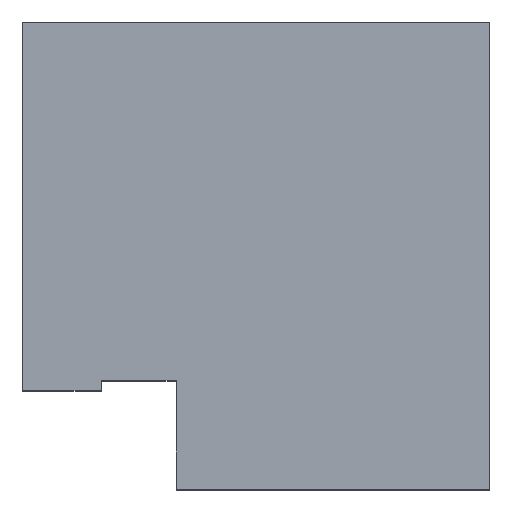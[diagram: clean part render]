
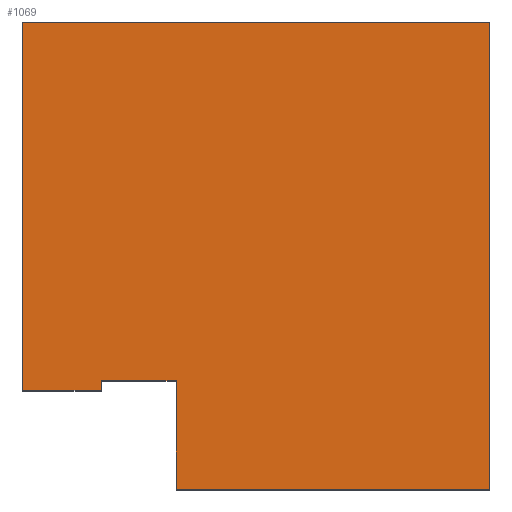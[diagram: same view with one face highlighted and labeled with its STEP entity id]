
A CAD part, top view. The second image highlights one B-rep face of the part: STEP entity #1069.
In plain terms, the highlighted planar face has unit normal (0, 0, 1).
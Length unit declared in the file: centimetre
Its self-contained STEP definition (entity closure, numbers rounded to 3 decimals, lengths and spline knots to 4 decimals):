
#12 = EDGE_CURVE ( 'NONE', #1029, #1156, #518, .T. ) ;
#29 = VECTOR ( 'NONE', #599, 100. ) ;
#30 = ORIENTED_EDGE ( 'NONE', *, *, #1036, .T. ) ;
#72 = PLANE ( 'NONE',  #661 ) ;
#83 = DIRECTION ( 'NONE',  ( 1., 0., 0. ) ) ;
#99 = LINE ( 'NONE', #535, #29 ) ;
#105 = EDGE_CURVE ( 'NONE', #537, #223, #765, .T. ) ;
#106 = DIRECTION ( 'NONE',  ( 0., 1., 0. ) ) ;
#122 = VECTOR ( 'NONE', #853, 100. ) ;
#160 = EDGE_LOOP ( 'NONE', ( #864, #603, #1135, #514, #30, #645, #532, #608 ) ) ;
#165 = VECTOR ( 'NONE', #688, 100. ) ;
#183 = VECTOR ( 'NONE', #205, 100. ) ;
#185 = DIRECTION ( 'NONE',  ( 0., 0., 1. ) ) ;
#199 = VECTOR ( 'NONE', #986, 100. ) ;
#205 = DIRECTION ( 'NONE',  ( 1., 0., 0. ) ) ;
#209 = CARTESIAN_POINT ( 'NONE',  ( 168.8879, 232.3228, 1000. ) ) ;
#223 = VERTEX_POINT ( 'NONE', #525 ) ;
#243 = EDGE_CURVE ( 'NONE', #952, #1107, #99, .T. ) ;
#245 = FACE_OUTER_BOUND ( 'NONE', #160, .T. ) ;
#258 = CARTESIAN_POINT ( 'NONE',  ( 0., 0., 1000. ) ) ;
#270 = EDGE_CURVE ( 'NONE', #1156, #1041, #520, .T. ) ;
#280 = CARTESIAN_POINT ( 'NONE',  ( 1000., 1000., 1000. ) ) ;
#326 = EDGE_CURVE ( 'NONE', #1041, #537, #456, .T. ) ;
#336 = CARTESIAN_POINT ( 'NONE',  ( 0., 211.8454, 1000. ) ) ;
#362 = EDGE_CURVE ( 'NONE', #1107, #1029, #746, .T. ) ;
#431 = VERTEX_POINT ( 'NONE', #1094 ) ;
#456 = LINE ( 'NONE', #209, #183 ) ;
#486 = CARTESIAN_POINT ( 'NONE',  ( 328.9698, 232.3228, 1000. ) ) ;
#497 = CARTESIAN_POINT ( 'NONE',  ( 1000., 1000., 1000. ) ) ;
#514 = ORIENTED_EDGE ( 'NONE', *, *, #105, .T. ) ;
#517 = LINE ( 'NONE', #258, #627 ) ;
#518 = LINE ( 'NONE', #336, #165 ) ;
#520 = LINE ( 'NONE', #624, #199 ) ;
#525 = CARTESIAN_POINT ( 'NONE',  ( 328.9698, 0., 1000. ) ) ;
#532 = ORIENTED_EDGE ( 'NONE', *, *, #243, .T. ) ;
#535 = CARTESIAN_POINT ( 'NONE',  ( 0., 1000., 1000. ) ) ;
#537 = VERTEX_POINT ( 'NONE', #486 ) ;
#548 = DIRECTION ( 'NONE',  ( 0., -1., 0. ) ) ;
#599 = DIRECTION ( 'NONE',  ( -1., 0., 0. ) ) ;
#603 = ORIENTED_EDGE ( 'NONE', *, *, #270, .T. ) ;
#608 = ORIENTED_EDGE ( 'NONE', *, *, #362, .T. ) ;
#624 = CARTESIAN_POINT ( 'NONE',  ( 168.8879, 0., 1000. ) ) ;
#627 = VECTOR ( 'NONE', #880, 100. ) ;
#645 = ORIENTED_EDGE ( 'NONE', *, *, #753, .T. ) ;
#661 = AXIS2_PLACEMENT_3D ( 'NONE', #978, #185, #83 ) ;
#688 = DIRECTION ( 'NONE',  ( 1., 0., 0. ) ) ;
#713 = CARTESIAN_POINT ( 'NONE',  ( 168.8879, 211.8454, 1000. ) ) ;
#728 = CARTESIAN_POINT ( 'NONE',  ( 0., 1000., 1000. ) ) ;
#746 = LINE ( 'NONE', #728, #1136 ) ;
#753 = EDGE_CURVE ( 'NONE', #431, #952, #921, .T. ) ;
#765 = LINE ( 'NONE', #927, #122 ) ;
#853 = DIRECTION ( 'NONE',  ( 0., -1., 0. ) ) ;
#864 = ORIENTED_EDGE ( 'NONE', *, *, #12, .T. ) ;
#880 = DIRECTION ( 'NONE',  ( 1., 0., 0. ) ) ;
#921 = LINE ( 'NONE', #280, #1046 ) ;
#927 = CARTESIAN_POINT ( 'NONE',  ( 328.9698, 0., 1000. ) ) ;
#952 = VERTEX_POINT ( 'NONE', #497 ) ;
#978 = CARTESIAN_POINT ( 'NONE',  ( 0., 0., 1000. ) ) ;
#986 = DIRECTION ( 'NONE',  ( 0., 1., 0. ) ) ;
#1029 = VERTEX_POINT ( 'NONE', #1137 ) ;
#1036 = EDGE_CURVE ( 'NONE', #223, #431, #517, .T. ) ;
#1041 = VERTEX_POINT ( 'NONE', #1050 ) ;
#1046 = VECTOR ( 'NONE', #106, 100. ) ;
#1050 = CARTESIAN_POINT ( 'NONE',  ( 168.8879, 232.3228, 1000. ) ) ;
#1069 = ADVANCED_FACE ( 'NONE', ( #245 ), #72, .T. ) ;
#1094 = CARTESIAN_POINT ( 'NONE',  ( 1000., 0., 1000. ) ) ;
#1107 = VERTEX_POINT ( 'NONE', #1160 ) ;
#1135 = ORIENTED_EDGE ( 'NONE', *, *, #326, .T. ) ;
#1136 = VECTOR ( 'NONE', #548, 100. ) ;
#1137 = CARTESIAN_POINT ( 'NONE',  ( 0., 211.8454, 1000. ) ) ;
#1156 = VERTEX_POINT ( 'NONE', #713 ) ;
#1160 = CARTESIAN_POINT ( 'NONE',  ( 0., 1000., 1000. ) ) ;
